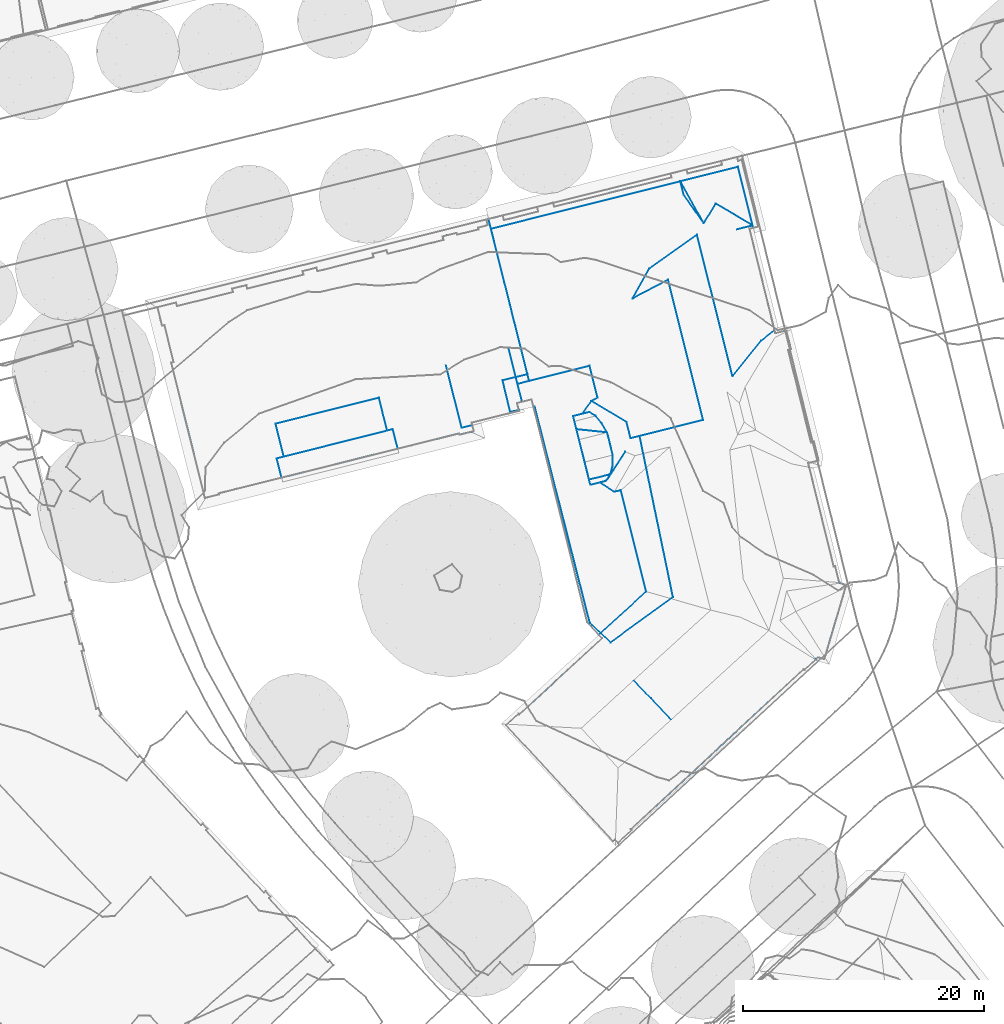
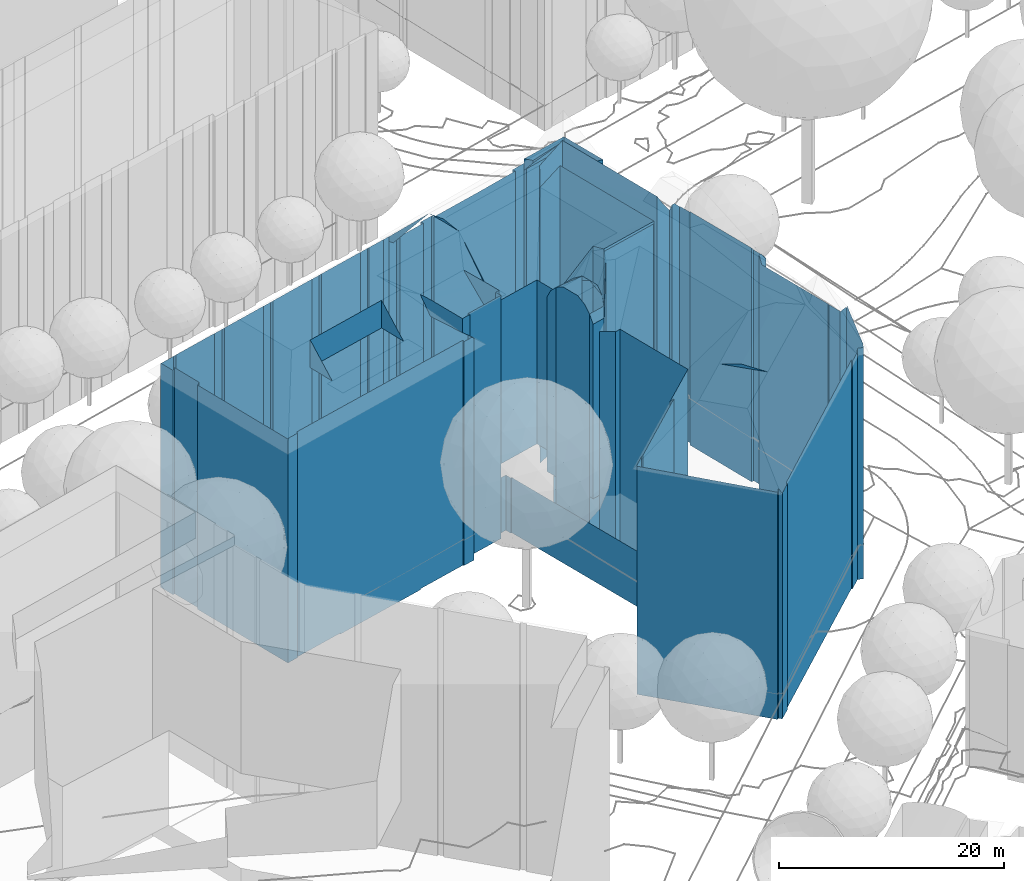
# Not in any storey, part 31 of 477: 2 walls.
"""IFC4 building model written with IfcOpenShell, lengths in metres."""

from ifc_helpers import new_model, si_unit, frame, origin_with_axes, place, context, subcontext, project, spatial, polygons, element, save


model = new_model("IFC4")

# Units and contexts
model_context = context("Model", 3, precision=1e-05, world=origin_with_axes())
body_context = subcontext(model_context, "Body", "Model", "MODEL_VIEW")
ifc_project = project(units=[si_unit("AREAUNIT", "SQUARE_METRE"), si_unit("LENGTHUNIT", "METRE")], contexts=[model_context])

# Sites, building
site_1_placement = place(None, origin_with_axes())
site_1 = spatial("IfcSite", under=ifc_project, at=site_1_placement, Name="Topoexport Site")
site_2_placement = place(site_1_placement, origin_with_axes())
site_2 = spatial("IfcSite", under=site_1, at=site_2_placement, Name="TPX_BUILDINGS")
building_placement = place(site_2_placement, frame((124.1537320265, 278.7713160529, 533.7988), z_axis=(0.0, 0.0, 1.0), x_axis=(1.0, 0.0, 0.0)))
building = spatial("IfcBuilding", under=site_2, at=building_placement, Name="Building 151", CompositionType="ELEMENT")

# Walls
wall_1_placement = place(None, frame((124.1537320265, 278.7713160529, 533.7988), z_axis=(0.0, 0.0, 1.0), x_axis=(1.0, 0.0, 0.0)))
element("IfcWall", 1, at=wall_1_placement, inside=building, Name="Wall 0", context=body_context, shape_type="Tessellation", body=[
    polygons([(6.8839999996, 20.3486000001, 26.5365), (8.6400000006, 20.7793000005, 26.5365), (8.6400000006, 20.7793000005, 26.2145), (8.6400000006, 20.7793000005, 0.8999), (6.8839999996, 20.3486000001, 0.8999), (5.8379999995, 24.5194999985, 0.8999), (8.3839999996, 24.2577999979, 27.2494), (5.8379999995, 24.5194999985, 27.2494), (8.3839999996, 24.2577999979, 27.7623), (8.8500000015, 22.3935000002, 27.2444), (8.8500000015, 22.3935000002, 27.7623), (8.6110000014, 23.3515999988, 27.7623), (25.7080000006, 5.4492000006, 0.0), (25.6669999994, 5.4101999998, 0.0), (25.7060000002, 5.4472999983, 24.6966), (25.6680999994, 5.4111999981, 24.7236), (9.2769999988, -9.7675999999, 24.5196), (10.4050000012, -8.7324000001, 24.5256), (10.4050000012, -8.7324000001, 0.0), (10.3370000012, -8.6592000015, 0.0), (21.0810000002, 1.2987999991, 24.7846), (24.6689999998, 4.623999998, 0.0), (13.9200000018, -5.3388999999, 24.6896), (24.7369999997, 4.5516999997, 24.7136), (24.7369999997, 4.5517999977, 0.0), (24.6689999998, 4.623999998, 24.8316), (9.0230000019, -9.4922000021, 0.0), (8.8770000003, -9.6279000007, 24.6596), (9.0230000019, -9.4922000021, 24.8956), (8.8768999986, -9.6279999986, 0.0), (7.6840000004, 7.4794999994, 0.0), (7.6840000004, 7.4794999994, 24.4946), (7.9499999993, 7.192400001, 24.9436), (7.9499999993, 7.192400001, 0.0), (1.0989999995, 0.8583999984, 0.0), (2.811999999, 2.442400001, 24.9996), (1.0989999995, 0.8583999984, 25.0186), (1.0260000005, 0.9375, 24.8956), (11.6229999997, 11.0702999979, 24.4946), (11.6229999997, 11.0702999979, 0.0), (8.313000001, 20.2421999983, 0.0), (9.8839999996, 22.6532999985, 0.0), (8.313000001, 20.2421999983, 25.1776), (7.7589999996, 20.1035000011, 0.0), (7.7589999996, 20.1035000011, 24.4947), (8.9629999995, 19.3300999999, 0.0), (8.9629999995, 19.3300999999, 24.4947), (9.5139999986, 19.4697000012, 24.4947), (9.5139999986, 19.4697000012, 0.0), (23.4990000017, 31.1191000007, 9.3641), (23.5590000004, 31.1347999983, 25.1276), (23.6359999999, 31.1532999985, 0.0), (23.3920999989, 31.0938000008, 25.3526), (23.3920000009, 31.0936999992, 0.0), (27.6420000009, 11.7881000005, 18.5572), (27.6339999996, 11.817400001, 0.0), (27.6420000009, 11.7881000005, 12.3648), (27.6420000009, 11.7881999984, 0.0), (27.6420000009, 11.7881999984, 6.1734), (27.6339999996, 11.8183999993, 24.7686), (27.2969999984, 13.1669999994, 0.0), (25.7569999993, 5.4932000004, 0.0), (25.756000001, 5.4921999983, 24.8166), (25.8729999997, 5.6015999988, 0.0), (26.3920000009, 5.4472999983, 18.8252), (25.8729999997, 5.6015999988, 25.1016), (26.3920000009, 5.4472999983, 25.1006), (26.3920000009, 5.4472999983, 12.5498), (26.3920000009, 5.4472999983, 0.0), (16.3480000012, 25.2978000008, 0.0), (13.4299999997, 36.9188999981, 30.2961), (16.3480000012, 25.2978000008, 30.2961), (15.8280000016, 40.6669999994, 0.0), (18.7740000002, 28.9307000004, 29.9171), (15.8280000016, 40.6669999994, 29.9172), (11.8619999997, 37.8427999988, 0.0), (11.8619999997, 37.8427999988, 30.2961), (10.4750000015, 35.365199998, 0.0), (10.4750000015, 35.365199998, 29.9172), (13.4299999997, 36.9188999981, 0.0), (18.7740000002, 28.9307000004, 0.0), (21.1400000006, 31.8506000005, 26.4205), (21.1400000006, 31.8506000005, 0.0), (22.2650000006, 32.7509999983, 0.0), (22.2650000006, 32.7509999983, 24.8986), (10.324000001, 23.7841999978, 0.0), (10.324000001, 23.7841999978, 30.2961), (9.9919999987, 25.1123000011, 0.0), (9.9919999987, 25.1123000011, 29.9171), (9.8839999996, 22.6532999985, 29.9171), (8.6400000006, 20.7793000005, 0.0), (6.3269999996, 25.8104999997, 0.0), (7.0700000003, 26.8691000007, 24.4947), (6.3269999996, 25.8104999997, 24.4947), (6.8790000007, 25.9501999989, 0.0), (6.8790000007, 25.9501999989, 25.1066), (7.0700000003, 26.8691000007, 0.0), (7.4180000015, 25.6347999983, 0.0), (7.4180000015, 25.6347999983, 26.1375), (8.3839999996, 24.2577999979, 0.8999), (7.9239999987, 25.0429999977, 27.1874), (8.3839999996, 24.2577999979, 0.0), (7.9239999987, 25.0429999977, 0.0), (8.6090000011, 23.3574000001, 27.7623), (8.8220000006, 21.4697000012, 27.2004), (8.8220000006, 21.4697000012, 0.0), (8.8500000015, 22.3935000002, 0.8999), (8.8220000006, 21.4697000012, 0.8999), (12.0219999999, 2.2080000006, 29.9131), (12.0219999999, 2.2080000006, 30.2961), (13.6950000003, 0.4580000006, 29.9171), (10.5749999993, 3.7197000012, 29.9171), (9.2769999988, -9.7675999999, 0.0), (9.0610000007, -9.5331999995, 24.8946), (0.0, 0.0, 24.7636), (0.0, 0.0, 0.0), (0.0830000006, 0.0762000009, 24.8956), (1.0260999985, 0.9375, 12.3858), (1.0260000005, 0.9375, 0.0), (0.4059999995, 0.371100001, 0.0), (27.1799999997, 13.1367000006, 0.0), (27.1799999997, 13.1367000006, 24.9086), (25.1449999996, 21.3720999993, 24.8716), (25.061999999, 21.7089999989, 0.0), (25.061999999, 21.7089999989, 25.7385), (25.1449999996, 21.3720999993, 0.0), (25.3029999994, 21.7685999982, 0.0), (25.9250000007, 21.9228000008, 24.8976), (25.9250000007, 21.9228999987, 0.0), (25.3029999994, 21.7685999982, 25.7355), (25.8590000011, 22.1904000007, 25.0586), (25.5379999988, 23.4844000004, 25.0536), (25.5379999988, 23.4844000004, 0.0), (25.8590000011, 22.1904000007, 0.0), (25.2870000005, 23.4228000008, 25.3906), (25.2870000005, 23.4228999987, 0.0), (25.0020000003, 24.5751999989, 25.3856), (23.25, 32.7100000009, 24.9436), (23.25, 32.7100000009, 0.0), (23.6359999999, 31.1532999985, 12.3488), (23.2699999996, 32.6308999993, 0.0), (23.2699999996, 32.6308999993, 25.0196), (23.6359999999, 31.1532999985, 25.0256), (28.194000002, 11.5429999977, 0.0), (28.050999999, 11.6074000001, 0.0), (28.194000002, 11.5429999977, 25.1116), (28.050999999, 11.6074000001, 25.1046), (27.6830000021, 11.7705000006, 24.6986), (27.6420000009, 11.7881000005, 24.7496), (27.2969000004, 13.1669999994, 24.7666), (28.1480000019, 11.3887000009, 25.4025), (26.4330000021, 5.5878999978, 25.4005), (26.4330000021, 5.5878999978, 0.0), (28.1480000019, 11.3887000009, 0.0), (22.6669999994, 32.566399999, 25.6035), (22.3310000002, 32.4833999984, 25.5996), (22.3310000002, 32.4833999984, 0.0), (8.8500000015, 22.3935000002, 0.0), (8.6090000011, 23.3544999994, 0.0), (6.7340000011, 20.9452999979, 0.8999), (6.5179999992, 21.808600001, 0.8999), (6.0500000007, 23.6708999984, 0.8999), (6.7340000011, 20.9452999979, 27.2494), (6.0500000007, 23.6708999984, 27.7623), (6.5179999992, 21.808600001, 27.7623), (10.3370000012, -8.6592000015, 24.6426)], [[[3, 2, 1]], [[3, 5, 4]], [[8, 7, 6]], [[9, 7, 8]], [[12, 11, 10]], [[15, 14, 13]], [[15, 16, 14]], [[19, 18, 17]], [[18, 19, 20]], [[20, 22, 21]], [[23, 20, 21]], [[25, 24, 22]], [[24, 26, 22]], [[16, 24, 14]], [[29, 28, 27]], [[28, 30, 27]], [[33, 32, 31]], [[33, 31, 34]], [[36, 33, 35]], [[38, 37, 35]], [[40, 32, 39]], [[40, 31, 32]], [[43, 42, 41]], [[45, 41, 44]], [[47, 45, 46]], [[39, 48, 40]], [[48, 47, 49]], [[52, 51, 50]], [[54, 50, 53]], [[50, 54, 52]], [[57, 56, 55]], [[59, 58, 56]], [[61, 60, 56]], [[64, 63, 62]], [[67, 66, 65]], [[68, 65, 66]], [[69, 68, 64]], [[62, 15, 13]], [[72, 71, 70]], [[75, 74, 73]], [[77, 75, 76]], [[79, 76, 78]], [[71, 79, 80]], [[74, 82, 81]], [[82, 84, 83]], [[85, 84, 82]], [[87, 72, 86]], [[89, 86, 88]], [[90, 3, 42]], [[4, 91, 42]], [[94, 93, 92]], [[96, 94, 95]], [[93, 88, 97]], [[99, 96, 98]], [[7, 101, 100]], [[100, 103, 102]], [[101, 99, 103]], [[9, 104, 7]], [[105, 2, 3]], [[11, 105, 10]], [[108, 107, 106]], [[91, 4, 108]], [[108, 106, 91]], [[111, 110, 109]], [[112, 109, 110]], [[113, 17, 29]], [[29, 27, 113]], [[17, 114, 29]], [[30, 28, 115]], [[115, 116, 30]], [[118, 115, 117]], [[115, 118, 116]], [[117, 38, 118]], [[120, 118, 119]], [[120, 116, 118]], [[123, 122, 121]], [[125, 123, 124]], [[126, 124, 123]], [[121, 126, 123]], [[129, 128, 127]], [[127, 128, 130]], [[124, 130, 125]], [[130, 124, 127]], [[132, 131, 128]], [[132, 128, 133]], [[134, 133, 128]], [[129, 134, 128]], [[135, 132, 133]], [[133, 136, 135]], [[137, 54, 53]], [[137, 136, 54]], [[135, 136, 137]], [[140, 139, 138]], [[140, 141, 139]], [[138, 142, 140]], [[140, 142, 143]], [[52, 141, 140]], [[145, 59, 144]], [[145, 58, 59]], [[59, 57, 144]], [[55, 147, 146]], [[55, 148, 147]], [[55, 144, 57]], [[148, 55, 149]], [[55, 146, 144]], [[150, 121, 122]], [[61, 121, 150]], [[152, 67, 151]], [[151, 65, 146]], [[65, 151, 67]], [[146, 65, 68]], [[68, 69, 153]], [[68, 154, 144]], [[154, 68, 153]], [[68, 144, 146]], [[157, 156, 155]], [[139, 157, 155]], [[139, 155, 138]], [[158, 107, 100]], [[159, 100, 102]], [[100, 159, 158]], [[161, 160, 1]], [[162, 161, 1]], [[6, 162, 1]], [[160, 5, 1]], [[1, 163, 8]], [[165, 164, 8]], [[165, 8, 163]], [[1, 8, 6]], [[1, 5, 3]], [[7, 100, 6]], [[17, 113, 19]], [[166, 18, 20]], [[22, 26, 21]], [[166, 20, 23]], [[24, 25, 14]], [[36, 35, 37]], [[33, 34, 35]], [[118, 38, 35]], [[35, 119, 118]], [[90, 42, 43]], [[43, 41, 45]], [[45, 44, 46]], [[48, 49, 40]], [[47, 46, 49]], [[51, 53, 50]], [[140, 143, 51]], [[51, 52, 140]], [[60, 149, 56]], [[56, 149, 55]], [[57, 59, 56]], [[60, 61, 150]], [[66, 63, 64]], [[66, 64, 68]], [[15, 62, 63]], [[71, 80, 70]], [[74, 81, 73]], [[75, 73, 76]], [[77, 76, 79]], [[79, 78, 80]], [[82, 83, 81]], [[84, 85, 157]], [[85, 156, 157]], [[72, 70, 86]], [[87, 86, 89]], [[3, 4, 42]], [[93, 97, 92]], [[94, 92, 95]], [[89, 88, 93]], [[96, 95, 98]], [[101, 103, 100]], [[99, 98, 103]], [[107, 158, 106]]]),
])
wall_2_placement = place(None, frame((124.1537320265, 278.7713160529, 533.7988), z_axis=(0.0, 0.0, 1.0), x_axis=(1.0, 0.0, 0.0)))
element("IfcWall", 2, at=wall_2_placement, inside=building, Name="Wall 1", context=body_context, shape_type="Tessellation", body=[
    polygons([(2.2820000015, 26.375, 0.6939), (2.1279999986, 26.995099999, 6.6974), (2.2820000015, 26.375, 6.6974), (2.381000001, 26.3975000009, 0.6939), (2.381000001, 26.3975000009, 6.6974), (6.9510000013, 8.4501999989, 0.6939), (6.9510000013, 8.4501999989, 6.6973), (8.6559999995, 6.8436999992, 0.6939), (8.6559999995, 6.8436999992, 6.6973), (13.8410000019, 10.6182000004, 0.6939), (13.8410000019, 10.6182000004, 6.6973), (11.068, 23.9716999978, 0.6939), (11.068, 23.9716999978, 6.6974), (-0.2919999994, 28.5762000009, 0.6939), (1.7730000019, 29.0907999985, 0.7269), (-0.2919999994, 28.5762000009, 0.7269), (0.3469999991, 25.9521000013, 0.6939), (0.3469999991, 25.9521000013, 0.7269), (1.0610000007, 26.1083999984, 0.6939), (1.0610000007, 26.1083999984, 0.7269), (10.4750000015, 35.365199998, 0.0), (13.4299999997, 36.9188999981, 0.0), (10.4750000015, 35.365199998, 29.9172), (16.3480000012, 25.2978000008, 30.2961), (13.4299999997, 36.9188999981, 30.2961), (11.8619999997, 37.8427999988, 0.0), (11.8619999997, 37.8427999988, 30.2961), (15.8280000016, 40.6669999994, 0.0), (15.8280000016, 40.6669999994, 29.9172), (18.7740000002, 28.9307000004, 0.0), (18.7740000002, 28.9307000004, 29.9171), (21.1400000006, 31.8506000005, 0.0), (21.1400000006, 31.8506000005, 26.4205), (16.3949999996, 41.6054999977, 2.8947), (14.4530000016, 45.0850000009, 2.8947), (14.4530000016, 45.0850000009, 2.6808), (16.3949999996, 41.6054999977, 0.0), (14.4530000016, 45.0850000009, 0.0), (20.4450000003, 41.4248000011, 0.0), (17.379999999, 43.2344000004, 2.8947), (17.379999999, 43.2344000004, 0.0), (20.4459999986, 41.4248000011, 2.6808), (20.4450000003, 41.4248000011, 2.8947), (22.2650000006, 32.7509999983, 0.0), (22.2650000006, 32.7509999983, 24.8986), (9.9919999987, 25.1123000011, 6.6974), (7.0700000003, 26.8691000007, 24.4947), (9.9919999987, 25.1123000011, 29.9171), (7.0700000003, 26.8691000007, 0.0), (9.9919999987, 25.1123000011, 0.6939), (9.9919999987, 25.1123000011, 0.0), (7.0700000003, 26.8691000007, 0.6939), (7.0700000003, 26.8691000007, 6.6974), (7.5890000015, 27.1444999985, 24.4947), (7.5890000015, 27.1444999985, 0.6939), (16.3480000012, 25.2978000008, 0.0), (10.324000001, 23.7841999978, 30.2961), (10.324000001, 23.7841999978, 0.0), (10.324000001, 23.7841999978, 6.6974), (10.324000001, 23.7841999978, 0.6939), (7.5890000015, 27.1444999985, 0.0), (6.9270000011, 29.7802999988, 0.6939), (7.5890000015, 27.1444999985, 6.6974), (6.9270000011, 29.7802999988, 24.4947), (6.9270000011, 29.7802999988, 0.0), (1.9149999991, 28.5234000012, 0.6939), (8.3839999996, 24.2577999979, 6.6974), (5.8379999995, 24.5194999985, 27.2494), (8.3839999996, 24.2577999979, 27.7623), (7.9239999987, 25.0429999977, 6.6974), (7.9239999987, 25.0429999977, 27.1874), (-2.7980000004, 24.8671999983, 24.8196), (-3.6860000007, 24.6444999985, 25.5946), (-2.7980000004, 24.8671999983, 27.1294), (-19.1160000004, 24.9853000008, 26.9974), (-18.4299999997, 22.254900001, 26.9644), (-19.1160000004, 24.9853000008, 30.0042), (-10.5449999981, 27.1387000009, 26.9974), (-10.5449999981, 27.1387000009, 30.0042), (-9.8599999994, 24.4043000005, 26.9644), (-3.8720000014, 24.0623999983, 0.7269), (-3.8979999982, 24.1668999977, 19.0452), (-3.8979999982, 24.1668999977, 25.1506), (-3.8979999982, 24.1669999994, 12.9388), (-3.8979999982, 24.1669999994, 6.8334), (1.0769999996, 26.0429999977, 0.7269), (-2.8480000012, 25.066399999, 27.1294), (1.0769999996, 26.0429999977, 27.1294), (-23.8280000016, 19.2030999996, 0.727), (-23.8049999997, 19.1112999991, 25.0886), (-23.8280000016, 19.2030999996, 25.1916), (-23.8049999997, 19.1112000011, 15.9145), (-28.324000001, 33.1493999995, 0.727), (-28.5179999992, 33.1015999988, 0.727), (-28.5179999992, 33.1015999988, 14.3297), (-28.324000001, 33.1493999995, 25.2726), (-27.5639999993, 30.0927999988, 25.2656), (-27.5639999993, 30.0927999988, 0.727), (-27.7569999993, 30.0438999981, 25.0616), (-27.7569999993, 30.0438999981, 0.727), (-26.7989999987, 26.186499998, 11.7439), (-25.6660000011, 21.6268999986, 25.0406), (-24.9690000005, 18.8213, 25.0326), (-27.0579999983, 27.2294999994, 25.0546), (-24.9690000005, 18.8213, 18.9492), (-24.9690000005, 18.8213, 0.727), (-24.9690000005, 18.8213, 12.8658), (-26.1889999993, 23.7313999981, 0.727), (-1.5139999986, 41.4393999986, 0.727), (-1.6319999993, 41.9140999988, 24.6127), (-1.5139999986, 41.4393999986, 25.0986), (-1.6319999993, 41.9140999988, 0.727), (-2.3289999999, 41.2373000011, 0.727), (-2.2930000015, 41.0927999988, 0.727), (-2.3289999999, 41.2373000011, 25.1006), (-2.2930000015, 41.0927999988, 25.2486), (-4.0610000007, 40.6523000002, 25.2546), (-4.0610000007, 40.6523000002, 0.727), (-4.0969999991, 40.7987999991, 25.1056), (-9.824000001, 39.0683000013, 25.3936), (-9.8969999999, 39.3612999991, 25.0856), (-9.8969999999, 39.3612999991, 0.727), (-9.824000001, 39.0683999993, 0.727), (-11.0590000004, 39.0742000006, 25.0796), (-11.0590000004, 39.0742000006, 0.727), (-10.9860000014, 38.7802999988, 0.727), (-10.9860000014, 38.7802999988, 25.3886), (-15.6409999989, 37.625, 25.3706), (-15.6409999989, 37.625, 0.727), (-15.7129999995, 37.9169999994, 25.0636), (-15.7129999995, 37.9169999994, 0.727), (-16.8770000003, 37.6268999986, 25.0606), (-16.8770000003, 37.6268999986, 0.727), (-16.8049999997, 37.3359000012, 0.727), (-16.8049999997, 37.3359000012, 25.3666), (-21.4620000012, 36.1816000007, 0.727), (-21.4620000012, 36.1816000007, 25.3476), (-21.5329999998, 36.4686999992, 25.0466), (-21.5329999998, 36.4686999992, 0.727), (-22.6259999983, 35.8925999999, 0.727), (-22.6979999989, 36.1816000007, 25.0397), (-22.6259999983, 35.8925999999, 25.3436), (-27.2859999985, 34.7362999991, 25.3246), (-27.2859999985, 34.7362999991, 0.727), (-27.3579999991, 35.0273000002, 25.0197), (-27.3581000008, 35.0273000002, 0.727), (-28.9010000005, 34.6444999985, 25.0137), (-9.3900000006, 24.5234000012, 0.617), (-8.9820000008, 22.9013999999, 0.7269), (-9.3900000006, 24.5234000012, 0.7269), (-19.0229999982, 22.1044999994, 0.617), (-19.0229999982, 22.1044999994, 0.727), (-18.6209999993, 20.5, 0.617), (-18.6209999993, 20.5, 0.727), (1.9149999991, 28.5234000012, 24.1807), (0.7890000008, 33.0155999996, 29.9602), (1.9149999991, 28.5234000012, 24.4947), (6.8839999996, 20.3486000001, 6.6974), (8.6400000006, 20.7793000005, 26.5365), (6.8839999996, 20.3486000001, 26.5365), (6.993999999, 19.9100999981, 6.6974), (6.993999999, 19.9100999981, 25.6465), (8.313000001, 20.2421999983, 6.6974), (8.313000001, 20.2421999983, 25.6465), (8.6400000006, 20.7793000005, 6.6974), (7.4180000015, 25.6347999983, 6.6974), (7.4180000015, 25.6347999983, 26.5365), (5.561999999, 25.6182000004, 6.6974), (6.8790000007, 25.9501999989, 25.6466), (5.561999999, 25.6182000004, 25.6466), (6.8790000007, 25.9501999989, 6.6974), (19.5450000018, 46.8827999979, 2.6808), (20.9189999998, 41.3271000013, 24.4947), (19.5450000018, 46.8827999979, 24.4947), (19.2509000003, 46.7762999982, 2.6808), (19.251000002, 46.7763999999, 24.4947), (19.1710000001, 47.0966999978, 2.6808), (19.1710000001, 47.0966999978, 24.4947), (17.8390000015, 46.7655999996, 2.6808), (17.8390000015, 46.7655999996, 24.4947), (17.9189999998, 46.4452999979, 2.6808), (17.9189999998, 46.4452999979, 24.4947), (13.6380000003, 45.7177999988, 2.6808), (13.6380000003, 45.7177999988, 24.4447), (13.7170000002, 45.3984000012, 24.4607), (15.057, 45.7324000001, 2.6808), (14.9770000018, 46.052699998, 24.4687), (14.9770000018, 46.052699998, 2.6808), (15.057, 45.7324000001, 24.4847), (15.057, 45.7324000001, 13.5827), (2.6660000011, 42.5731999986, 2.6808), (2.569000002, 42.9609000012, 24.3037), (2.6660000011, 42.5731999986, 24.3957), (2.569000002, 42.9609000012, 2.6808), (-0.175999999, 41.8641999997, 24.3947), (-0.175999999, 41.8641999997, 2.6808), (3.9409999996, 43.1884999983, 12.8018), (3.9149999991, 43.2969000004, 24.3037), (3.9149999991, 43.2969000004, 2.6808), (3.9910000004, 42.9756000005, 13.5227), (3.9910000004, 42.9756000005, 2.6808), (19.2250000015, 46.2841999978, 24.4947), (20.4450000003, 41.4248000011, 24.4947), (19.2250000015, 46.2841999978, 25.7356), (19.2250000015, 46.2841999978, 2.8947), (19.2250000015, 46.2841999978, 2.6808), (14.4530000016, 45.0850000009, 24.4947), (14.4530000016, 45.0850000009, 25.7356), (-1.2520000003, 41.1444999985, 0.727), (-1.2520000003, 41.1444999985, 2.6808), (-1.2520000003, 41.1444999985, 0.0), (20.4959999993, 41.2225999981, 2.6808), (-1.4560000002, 41.9580000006, 0.727), (-1.4560000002, 41.9580000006, 2.6808), (-0.1460000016, 36.7382999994, 29.9602), (-1.4560000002, 41.9580000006, 24.6117), (-1.4560000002, 41.9580000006, 24.3027), (-1.2520000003, 41.1444999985, 24.4947), (19.069000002, 41.0780999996, 26.1455), (20.4450000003, 41.4248000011, 25.7515), (14.7320000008, 43.9774999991, 25.8355), (14.7320000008, 43.9774999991, 26.1195), (16.3949999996, 41.6054999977, 29.0102), (0.9149999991, 26.6933000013, 0.6939), (0.9149999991, 26.6933999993, 27.1294), (1.3229999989, 26.7958999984, 6.6974), (2.1279999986, 26.995099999, 0.6939), (1.3229999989, 26.7958999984, 27.1294), (20.1909999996, 41.1475000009, 24.8596), (20.1909999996, 41.1473999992, 0.0), (20.4959999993, 41.2225999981, 0.0), (20.4959999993, 41.2225999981, 24.4947), (20.9189999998, 41.3271000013, 2.6808), (6.9270000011, 29.7802999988, 6.6974), (0.9499999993, 28.2802999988, 24.1807), (1.9149999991, 28.5234000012, 6.6974), (0.9499999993, 28.2802999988, 6.6974), (-4.682, 28.6094000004, 27.1294), (-3.6860000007, 24.6444999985, 27.1294), (-4.682, 28.6094000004, 25.3176), (-5.0020000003, 29.8856999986, 27.0404), (0.9499999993, 28.2802999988, 27.1294), (0.2179999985, 31.1952999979, 27.0624), (-2.9160000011, 24.3007999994, 0.7269), (-2.9160000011, 24.3007999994, 25.0326), (-2.6730000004, 24.3612999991, 24.8206), (-2.6730000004, 24.3612999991, 0.7269), (-3.8720000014, 24.0625, 25.0336), (-2.8480000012, 25.066399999, 0.7269), (-2.7980000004, 24.8671999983, 0.7269), (-23.8049999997, 19.1112999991, 0.727), (-24.9140000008, 18.8350000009, 25.0916), (-28.8869999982, 34.5888999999, 25.0727), (-28.5179999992, 33.1015999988, 25.0686), (-28.9010000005, 34.6444999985, 0.727), (-5.2430000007, 40.5137000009, 0.727), (-4.8819999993, 40.6035000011, 25.1076), (-5.2430000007, 40.5137000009, 25.1076), (-4.8819999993, 40.6035000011, 0.727), (-4.0969999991, 40.7987999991, 0.727), (-5.1710000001, 40.2225999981, 25.4066), (-5.1710000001, 40.2225999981, 0.727), (-5.2210000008, 40.4257999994, 0.727), (-5.9979999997, 40.0175999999, 0.727), (-5.9979999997, 40.0175999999, 25.4086), (-0.2729999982, 42.2518999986, 24.3027), (-0.2729999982, 42.2518999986, 2.6808), (0.3049999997, 34.9404000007, 30.2961), (0.3049999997, 34.9404000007, 30.0042), (0.7890000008, 33.0155999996, 0.7269), (1.7730000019, 29.0907999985, 0.6939), (1.9149999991, 28.5234000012, 0.0), (0.7890000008, 33.0155999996, 0.0), (0.3049999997, 34.9404000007, 0.727), (-0.1460000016, 36.7382999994, 0.727), (0.3049999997, 34.9404000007, 0.0), (-0.1460000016, 36.7382999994, 0.0), (5.6689999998, 25.1904000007, 26.5365), (5.8379999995, 24.5194999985, 6.6974), (5.6689999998, 25.1904000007, 6.6974), (15.6339999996, 45.8759999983, 2.6808), (15.6339999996, 45.8759999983, 24.4947), (3.7679999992, 43.2606999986, 2.6808), (3.7679999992, 43.2606999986, 24.3047), (8.1119999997, 44.0018999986, 24.3817), (3.9910000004, 42.9756000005, 24.3797), (8.0800000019, 43.9941000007, 2.6808), (13.7170000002, 45.3984000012, 13.5707), (9.9750000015, 44.4668000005, 24.3937), (13.7170000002, 45.3984000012, 2.6808), (-4.0870000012, 24.121100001, 25.1516), (-7.6090000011, 23.2432000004, 25.1586), (-7.6090000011, 23.2432000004, 0.7269), (-4.0729999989, 24.123999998, 0.7269), (-3.8979999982, 24.1669999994, 0.7269), (-8.9820000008, 22.9013999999, 25.1616), (-18.6209999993, 20.5, 25.1806), (-22.9849999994, 19.4131000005, 25.1896), (-8.9820000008, 22.9013999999, 0.617), (-22.6979999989, 36.1816000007, 0.727)], [[[3, 2, 1]], [[5, 3, 4]], [[7, 5, 6]], [[9, 7, 8]], [[11, 9, 10]], [[13, 11, 12]], [[16, 15, 14]], [[18, 16, 17]], [[20, 18, 19]], [[23, 22, 21]], [[25, 24, 22]], [[27, 23, 26]], [[29, 26, 28]], [[31, 29, 30]], [[33, 30, 32]], [[36, 35, 34]], [[38, 34, 37]], [[34, 38, 36]], [[41, 40, 39]], [[43, 42, 40]], [[42, 39, 40]], [[45, 32, 44]], [[48, 47, 46]], [[51, 50, 49]], [[52, 49, 50]], [[47, 54, 53]], [[52, 55, 49]], [[24, 13, 56]], [[13, 24, 57]], [[56, 12, 58]], [[12, 56, 13]], [[57, 59, 13]], [[60, 58, 12]], [[58, 60, 51]], [[50, 51, 60]], [[57, 48, 59]], [[55, 62, 61]], [[54, 64, 63]], [[62, 66, 65]], [[69, 68, 67]], [[71, 67, 70]], [[74, 73, 72]], [[77, 76, 75]], [[79, 77, 78]], [[80, 79, 78]], [[83, 82, 81]], [[85, 81, 84]], [[88, 87, 86]], [[91, 90, 89]], [[90, 92, 89]], [[95, 94, 93]], [[97, 96, 93]], [[98, 97, 93]], [[100, 99, 97]], [[97, 98, 100]], [[103, 102, 101]], [[104, 101, 102]], [[101, 105, 103]], [[107, 101, 106]], [[101, 108, 106]], [[104, 99, 101]], [[100, 108, 101]], [[100, 101, 99]], [[111, 110, 109]], [[109, 110, 112]], [[111, 109, 113]], [[116, 115, 114]], [[114, 115, 113]], [[118, 117, 116]], [[116, 114, 118]], [[119, 117, 118]], [[122, 121, 120]], [[123, 122, 120]], [[125, 124, 122]], [[127, 124, 126]], [[124, 125, 126]], [[129, 128, 126]], [[128, 127, 126]], [[131, 130, 129]], [[133, 132, 130]], [[130, 131, 133]], [[135, 132, 134]], [[132, 133, 134]], [[137, 135, 136]], [[135, 134, 136]], [[137, 136, 138]], [[139, 138, 136]], [[142, 141, 140]], [[144, 143, 142]], [[142, 140, 144]], [[146, 145, 143]], [[144, 146, 143]], [[147, 145, 146]], [[150, 149, 148]], [[152, 150, 151]], [[154, 151, 153]], [[157, 156, 155]], [[160, 159, 158]], [[162, 158, 161]], [[164, 162, 163]], [[159, 164, 165]], [[167, 70, 166]], [[170, 169, 168]], [[169, 166, 171]], [[174, 173, 172]], [[176, 174, 175]], [[178, 176, 177]], [[180, 178, 179]], [[182, 180, 181]], [[185, 184, 183]], [[188, 187, 186]], [[190, 187, 189]], [[183, 184, 188]], [[193, 192, 191]], [[191, 192, 194]], [[196, 195, 191]], [[193, 191, 195]], [[199, 198, 197]], [[199, 197, 200]], [[200, 201, 199]], [[204, 203, 202]], [[43, 205, 42]], [[205, 35, 206]], [[208, 204, 207]], [[210, 36, 209]], [[209, 38, 211]], [[37, 34, 41]], [[40, 41, 34]], [[42, 212, 39]], [[214, 210, 213]], [[217, 216, 215]], [[215, 218, 217]], [[203, 220, 219]], [[223, 222, 221]], [[221, 222, 208]], [[208, 207, 221]], [[225, 20, 224]], [[20, 225, 88]], [[224, 20, 19]], [[86, 20, 88]], [[227, 2, 226]], [[226, 225, 224]], [[225, 226, 228]], [[226, 224, 227]], [[229, 45, 44]], [[229, 44, 230]], [[230, 231, 212]], [[229, 233, 232]], [[212, 229, 230]], [[212, 233, 229]], [[232, 233, 173]], [[64, 155, 234]], [[155, 64, 157]], [[237, 236, 235]], [[239, 238, 73]], [[238, 241, 240]], [[235, 243, 242]], [[237, 235, 226]], [[228, 226, 235]], [[228, 235, 242]], [[246, 245, 244]], [[244, 247, 246]], [[245, 81, 244]], [[248, 81, 245]], [[249, 87, 72]], [[72, 87, 74]], [[72, 246, 247]], [[247, 250, 72]], [[72, 250, 249]], [[92, 107, 251]], [[92, 90, 252]], [[252, 103, 105]], [[105, 107, 92]], [[106, 251, 107]], [[92, 252, 105]], [[95, 254, 253]], [[94, 95, 255]], [[147, 255, 95]], [[95, 253, 147]], [[258, 257, 256]], [[259, 256, 257]], [[257, 119, 259]], [[260, 259, 119]], [[261, 258, 256]], [[263, 262, 261]], [[256, 263, 261]], [[264, 123, 120]], [[265, 261, 264]], [[262, 264, 261]], [[264, 120, 265]], [[110, 214, 112]], [[110, 216, 217]], [[217, 266, 214]], [[213, 112, 214]], [[214, 266, 267]], [[214, 110, 217]], [[269, 156, 268]], [[268, 215, 269]], [[271, 15, 270]], [[66, 271, 272]], [[272, 270, 273]], [[270, 272, 271]], [[273, 270, 274]], [[276, 274, 275]], [[274, 276, 273]], [[276, 275, 277]], [[277, 209, 211]], [[209, 277, 275]], [[68, 278, 170]], [[68, 170, 279]], [[170, 280, 279]], [[280, 170, 168]], [[186, 190, 281]], [[189, 282, 190]], [[182, 181, 190]], [[281, 190, 181]], [[282, 182, 190]], [[192, 283, 194]], [[284, 198, 199]], [[199, 283, 284]], [[284, 283, 192]], [[200, 286, 285]], [[201, 200, 287]], [[288, 287, 200]], [[200, 285, 288]], [[289, 185, 288]], [[290, 287, 288]], [[288, 285, 289]], [[82, 83, 291]], [[291, 292, 82]], [[82, 292, 84]], [[85, 84, 293]], [[295, 85, 294]], [[294, 85, 293]], [[293, 84, 149]], [[84, 292, 296]], [[297, 154, 296]], [[89, 297, 298]], [[91, 89, 298]], [[154, 297, 89]], [[299, 149, 153]], [[153, 149, 154]], [[154, 149, 296]], [[296, 149, 84]], [[2, 227, 1]], [[3, 1, 4]], [[5, 4, 6]], [[7, 6, 8]], [[9, 8, 10]], [[11, 10, 12]], [[15, 271, 14]], [[16, 14, 17]], [[18, 17, 19]], [[25, 22, 23]], [[24, 56, 22]], [[23, 21, 26]], [[27, 26, 29]], [[29, 28, 30]], [[31, 30, 33]], [[33, 32, 45]], [[47, 53, 46]], [[54, 63, 53]], [[55, 61, 49]], [[48, 46, 59]], [[62, 65, 61]], [[64, 234, 63]], [[66, 272, 65]], [[68, 279, 67]], [[69, 67, 71]], [[239, 73, 74]], [[77, 75, 78]], [[83, 81, 248]], [[82, 84, 81]], [[295, 81, 85]], [[87, 249, 86]], [[92, 251, 89]], [[254, 93, 96]], [[93, 254, 95]], [[107, 105, 101]], [[115, 111, 113]], [[118, 260, 119]], [[121, 122, 124]], [[128, 129, 130]], [[300, 141, 139]], [[138, 139, 141]], [[141, 300, 140]], [[255, 147, 146]], [[149, 299, 148]], [[150, 148, 151]], [[152, 151, 154]], [[159, 165, 158]], [[160, 158, 162]], [[162, 161, 163]], [[164, 163, 165]], [[71, 70, 167]], [[169, 171, 168]], [[167, 166, 169]], [[173, 233, 172]], [[174, 172, 175]], [[176, 175, 177]], [[178, 177, 179]], [[180, 179, 181]], [[288, 183, 290]], [[185, 183, 288]], [[186, 187, 190]], [[184, 187, 188]], [[267, 266, 196]], [[195, 196, 266]], [[197, 286, 200]], [[286, 197, 198]], [[220, 203, 204]], [[205, 206, 42]], [[35, 36, 206]], [[204, 202, 207]], [[36, 38, 209]], [[212, 231, 39]], [[210, 209, 213]], [[155, 236, 234]], [[236, 155, 235]], [[238, 240, 73]]]),
])

save(model, "model.ifc")
